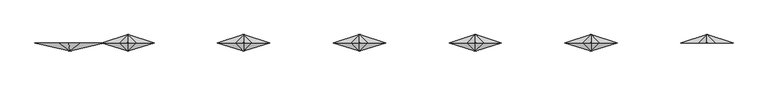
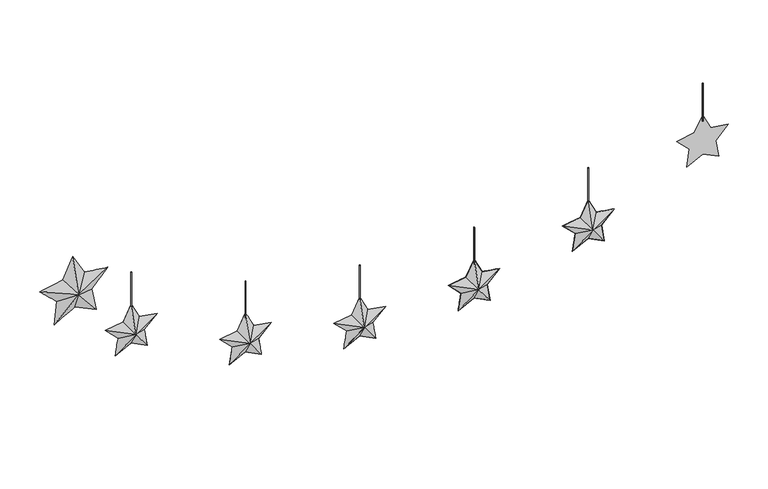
"""IFC4 building model written with IfcOpenShell, lengths in millimetres: furniture geometry, Гирлянда_звездочки_world_of_REVIT : Гирлянда звездочки_world_of_REVIT."""

from ifc_helpers import new_model, si_unit, point, frame, frame_2d, origin, place, context, project, spatial, circle_curve, trimmed, segment, composite_curve, outline, extrude, source, transform, mapped, element, save
from ifc_brep_helpers import plane_surface, spline_surface, advanced_brep


def furniture_1a968277(model_context):
    return source(origin(), model_context, "Body", "SolidModel", [
        advanced_brep(
        [(-856.4274722, -20.0, 1791.1650767), (-857.2103216, -20.0, 1791.6931154), (-857.9384188, -20.0, 1791.1330915), (-857.6264346, -20.0, 1790.2759219), (-856.6718154, -20.0, 1790.3129506), (-772.3482802, 0.0, 1821.7673999), (-812.8397593, 0.0, 1778.3456047), (-801.5110833, 0.0, 1720.0646192), (-855.3202198, 0.0, 1745.1562316), (-907.2479774, 0.0, 1716.3722055), (-900.0123736, 0.0, 1775.30147), (-943.4341687, 0.0, 1815.792949), (-885.1531832, 0.0, 1827.121625), (-860.0615708, 0.0, 1880.9307614), (-831.2775447, 0.0, 1829.0030038)],
        [
            (0, 1),
            (1, 2),
            (2, 3),
            (3, 4),
            (4, 0),
            (5, 6),
            (6, 7),
            (7, 8),
            (8, 9),
            (9, 10),
            (10, 11),
            (11, 12),
            (12, 13),
            (13, 14),
            (14, 5),
            (5, 0),
            (4, 6),
            (4, 7),
            (4, 8),
            (3, 9),
            (11, 2),
            (1, 12),
            (1, 13),
            (1, 14),
            (10, 3),
        ],
        [
            plane_surface(frame((-857.1748925, -20.0, 1790.9160312), z_axis=(0.0, -1.0000000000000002, 0.0), x_axis=(-0.8290375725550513, 0.0, 0.5591929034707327))),
            plane_surface(frame((-856.9206161, 0.0, 1790.985587), z_axis=(0.0, 1.0000000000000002, 0.0), x_axis=(-0.8290375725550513, 0.0, 0.5591929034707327))),
            spline_surface(1, 1, [[(-812.8397593, 0.0, 1778.3456047), (-856.6718154, -20.0, 1790.3129506)], [(-772.3482802, 0.0, 1821.7673999), (-856.4274722, -20.0, 1791.1650767)]], [2, 2], [2, 2], [0.0, 1.0], [0.0, 1.0]),
            plane_surface(frame((-807.1754213, 0.0, 1749.205112), z_axis=(0.4325552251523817, -0.8976783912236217, 0.0840802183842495), x_axis=(-0.19080899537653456, 0.0, 0.981627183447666))),
            plane_surface(frame((-828.4156515, 0.0, 1732.6104254), z_axis=(-0.1876682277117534, -0.8959966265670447, -0.40245581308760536), x_axis=(0.9063077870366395, 0.0, -0.42261826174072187))),
            spline_surface(1, 1, [[(-907.2479774, 0.0, 1716.3722055), (-857.6264346, -20.0, 1790.2759219)], [(-855.3202198, 0.0, 1745.1562316), (-856.6718154, -20.0, 1790.3129506)]], [2, 2], [2, 2], [0.0, 1.0], [0.0, 1.0]),
            spline_surface(1, 1, [[(-885.1531832, 0.0, 1827.121625), (-857.2103216, -20.0, 1791.6931154)], [(-943.4341687, 0.0, 1815.792949), (-857.9384188, -20.0, 1791.1330915)]], [2, 2], [2, 2], [0.0, 1.0], [0.0, 1.0]),
            plane_surface(frame((-872.607377, 0.0, 1854.0261932), z_axis=(-0.4029135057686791, -0.8957461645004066, 0.18788165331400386), x_axis=(-0.4226182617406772, 0.0, -0.9063077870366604))),
            plane_surface(frame((-845.6695578, 0.0, 1854.9668826), z_axis=(0.3852022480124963, -0.8977906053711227, 0.21352109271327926), x_axis=(-0.4848096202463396, 0.0, 0.8746197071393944))),
            spline_surface(1, 1, [[(-772.3482802, 0.0, 1821.7673999), (-856.4274722, -20.0, 1791.1650767)], [(-831.2775447, 0.0, 1829.0030038), (-857.2103216, -20.0, 1791.6931154)]], [2, 2], [2, 2], [0.0, 1.0], [0.0, 1.0]),
            spline_surface(1, 1, [[(-943.4341687, 0.0, 1815.792949), (-857.9384188, -20.0, 1791.1330915)], [(-900.0123736, 0.0, 1775.30147), (-857.6264346, -20.0, 1790.2759219)]], [2, 2], [2, 2], [0.0, 1.0], [0.0, 1.0]),
            plane_surface(frame((-903.6301755, 0.0, 1745.8368377), z_axis=(-0.4417137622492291, -0.8955151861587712, 0.05423563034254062), x_axis=(-0.12186934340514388, 0.0, -0.9925461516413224))),
        ],
        [
            (0, [[1, 2, 3, 4, 5]]),
            (1, [[6, 7, 8, 9, 10, 11, 12, 13, 14, 15]]),
            (2, [[-6, 16, -5, 17]]),
            (3, [[-7, -17, 18]]),
            (4, [[-8, -18, 19]]),
            (5, [[-9, -19, -4, 20]]),
            (6, [[-12, 21, -2, 22]]),
            (7, [[-13, -22, 23]]),
            (8, [[-14, -23, 24]]),
            (9, [[-15, -24, -1, -16]]),
            (10, [[-11, 25, -3, -21]]),
            (11, [[-10, -20, -25]]),
        ],
    ),
        extrude(outline(composite_curve([segment(trimmed(circle_curve(frame_2d((-714.2857143, 0.0)), 1.0), [point((-715.2857143, 0.0))], [point((-713.2857143, 0.0))], False, "CARTESIAN"), True, "CONTINUOUS"), segment(trimmed(circle_curve(frame_2d((-714.2857143, 0.0)), 1.0), [point((-713.2857143, 0.0))], [point((-715.2857143, 0.0))], False, "CARTESIAN"), True, "CONTINUOUS")], self_intersect=False)), frame((0.0, 0.0, 1687.5637503), z_axis=(0.0, 0.0, 1.0), x_axis=(1.0, 0.0, 0.0)), (0.0, 0.0, 1.0), 100.0),
        extrude(outline(composite_curve([segment(trimmed(circle_curve(frame_2d((-428.5714286, 0.0)), 1.0), [point((-429.5714286, 0.0))], [point((-427.5714286, 0.0))], False, "CARTESIAN"), True, "CONTINUOUS"), segment(trimmed(circle_curve(frame_2d((-428.5714286, 0.0)), 1.0), [point((-427.5714286, 0.0))], [point((-429.5714286, 0.0))], False, "CARTESIAN"), True, "CONTINUOUS")], self_intersect=False)), frame((0.0, 0.0, 1563.9606673), z_axis=(0.0, 0.0, 1.0), x_axis=(1.0, 0.0, 0.0)), (0.0, 0.0, 1.0), 100.0),
        extrude(outline(composite_curve([segment(trimmed(circle_curve(frame_2d((-142.8571429, 0.0)), 1.0), [point((-143.8571429, 0.0))], [point((-141.8571429, 0.0))], False, "CARTESIAN"), True, "CONTINUOUS"), segment(trimmed(circle_curve(frame_2d((-142.8571429, 0.0)), 1.0), [point((-141.8571429, 0.0))], [point((-143.8571429, 0.0))], False, "CARTESIAN"), True, "CONTINUOUS")], self_intersect=False)), frame((0.0, 0.0, 1506.2898264), z_axis=(0.0, 0.0, 1.0), x_axis=(1.0, 0.0, 0.0)), (0.0, 0.0, 1.0), 100.0),
        extrude(outline(composite_curve([segment(trimmed(circle_curve(frame_2d((714.2857143, 0.0)), 1.0), [point((715.2857143, 0.0))], [point((713.2857143, 0.0))], False, "CARTESIAN"), True, "CONTINUOUS"), segment(trimmed(circle_curve(frame_2d((714.2857143, 0.0)), 1.0), [point((713.2857143, 0.0))], [point((715.2857143, 0.0))], False, "CARTESIAN"), True, "CONTINUOUS")], self_intersect=False)), frame((0.0, 0.0, 1687.5637503), z_axis=(0.0, 0.0, 1.0), x_axis=(1.0, 0.0, 0.0)), (0.0, 0.0, 1.0), 100.0),
        extrude(outline(composite_curve([segment(trimmed(circle_curve(frame_2d((428.5714286, 0.0)), 1.0), [point((429.5714286, 0.0))], [point((427.5714286, 0.0))], False, "CARTESIAN"), True, "CONTINUOUS"), segment(trimmed(circle_curve(frame_2d((428.5714286, 0.0)), 1.0), [point((427.5714286, 0.0))], [point((429.5714286, 0.0))], False, "CARTESIAN"), True, "CONTINUOUS")], self_intersect=False)), frame((0.0, 0.0, 1563.9606673), z_axis=(0.0, 0.0, 1.0), x_axis=(1.0, 0.0, 0.0)), (0.0, 0.0, 1.0), 100.0),
        extrude(outline(composite_curve([segment(trimmed(circle_curve(frame_2d((142.8571429, 0.0)), 1.0), [point((143.8571429, 0.0))], [point((141.8571429, 0.0))], False, "CARTESIAN"), True, "CONTINUOUS"), segment(trimmed(circle_curve(frame_2d((142.8571429, 0.0)), 1.0), [point((141.8571429, 0.0))], [point((143.8571429, 0.0))], False, "CARTESIAN"), True, "CONTINUOUS")], self_intersect=False)), frame((0.0, 0.0, 1506.2898264), z_axis=(0.0, 0.0, 1.0), x_axis=(1.0, 0.0, 0.0)), (0.0, 0.0, 1.0), 100.0),
        advanced_brep(
        [(-142.8571429, -20.0, 1454.7920539), (-143.5743091, -20.0, 1454.2710021), (-143.2826057, -20.0, 1453.3612889), (-142.3704249, -20.0, 1453.3612889), (-142.0931986, -20.0, 1454.2370159), (-142.8571429, 0.0, 1522.2403684), (-122.4997719, 0.0, 1482.2867784), (-78.2108762, 0.0, 1475.2721064), (-109.9182248, 0.0, 1443.5647578), (-102.9035528, 0.0, 1399.2758621), (-142.8571429, 0.0, 1419.633233), (-182.8107329, 0.0, 1399.2758621), (-175.7960609, 0.0, 1443.5647578), (-207.5034095, 0.0, 1475.2721064), (-163.2145138, 0.0, 1482.2867784)],
        [
            (0, 1),
            (1, 2),
            (2, 3),
            (3, 4),
            (4, 0),
            (5, 6),
            (6, 7),
            (7, 8),
            (8, 9),
            (9, 10),
            (10, 11),
            (11, 12),
            (12, 13),
            (13, 14),
            (14, 5),
            (14, 1),
            (0, 5),
            (13, 1),
            (12, 1),
            (11, 2),
            (10, 3),
            (9, 3),
            (8, 4),
            (7, 4),
            (6, 4),
        ],
        [
            plane_surface(frame((-142.8355362, -20.0, 1454.0045299), z_axis=(0.0, -1.0000000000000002, 0.0), x_axis=(-0.809016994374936, 0.0, -0.587785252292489))),
            plane_surface(frame((-142.8571429, 0.0, 1454.2672611), z_axis=(0.0, 1.0000000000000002, 0.0), x_axis=(-0.809016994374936, 0.0, -0.587785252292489))),
            spline_surface(1, 1, [[(-142.8571429, 0.0, 1522.2403684), (-142.8571429, -20.0, 1454.7920539)], [(-163.2145138, 0.0, 1482.2867784), (-143.5743091, -20.0, 1454.2710021)]], [2, 2], [2, 2], [0.0, 1.0], [0.0, 1.0]),
            plane_surface(frame((-185.3589617, 0.0, 1478.7794424), z_axis=(-0.08530557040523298, -0.8382332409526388, 0.5385981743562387), x_axis=(-0.9876883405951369, 0.0, -0.15643446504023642))),
            plane_surface(frame((-191.6497352, 0.0, 1459.4184321), z_axis=(-0.389042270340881, -0.8350402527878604, -0.3890422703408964), x_axis=(0.7071067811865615, 0.0, -0.7071067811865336))),
            spline_surface(1, 1, [[(-175.7960609, 0.0, 1443.5647578), (-143.5743091, -20.0, 1454.2710021)], [(-182.8107329, 0.0, 1399.2758621), (-143.2826057, -20.0, 1453.3612889)]], [2, 2], [2, 2], [0.0, 1.0], [0.0, 1.0]),
            spline_surface(1, 1, [[(-182.8107329, 0.0, 1399.2758621), (-143.2826057, -20.0, 1453.3612889)], [(-142.8571429, 0.0, 1419.633233), (-142.3704249, -20.0, 1453.3612889)]], [2, 2], [2, 2], [0.0, 1.0], [0.0, 1.0]),
            plane_surface(frame((-122.8803478, 0.0, 1409.4545475), z_axis=(-0.25025052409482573, -0.8343572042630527, -0.4911443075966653), x_axis=(0.8910065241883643, 0.0, -0.45399049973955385))),
            spline_surface(1, 1, [[(-102.9035528, 0.0, 1399.2758621), (-142.3704249, -20.0, 1453.3612889)], [(-109.9182248, 0.0, 1443.5647578), (-142.0931986, -20.0, 1454.2370159)]], [2, 2], [2, 2], [0.0, 1.0], [0.0, 1.0]),
            plane_surface(frame((-94.0645505, 0.0, 1459.4184321), z_axis=(0.3895531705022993, -0.8345637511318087, -0.3895531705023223), x_axis=(0.7071067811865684, 0.0, 0.7071067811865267))),
            plane_surface(frame((-100.3553241, 0.0, 1478.7794424), z_axis=(0.08525441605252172, -0.8384458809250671, 0.5382751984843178), x_axis=(-0.9876883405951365, 0.0, 0.15643446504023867))),
            spline_surface(1, 1, [[(-122.4997719, 0.0, 1482.2867784), (-142.0931986, -20.0, 1454.2370159)], [(-142.8571429, 0.0, 1522.2403684), (-142.8571429, -20.0, 1454.7920539)]], [2, 2], [2, 2], [0.0, 1.0], [0.0, 1.0]),
        ],
        [
            (0, [[1, 2, 3, 4, 5]]),
            (1, [[6, 7, 8, 9, 10, 11, 12, 13, 14, 15]]),
            (2, [[-15, 16, -1, 17]]),
            (3, [[-14, 18, -16]]),
            (4, [[-13, 19, -18]]),
            (5, [[-12, 20, -2, -19]]),
            (6, [[-11, 21, -3, -20]]),
            (7, [[-10, 22, -21]]),
            (8, [[-9, 23, -4, -22]]),
            (9, [[-8, 24, -23]]),
            (10, [[-7, 25, -24]]),
            (11, [[-6, -17, -5, -25]]),
        ],
    ),
        advanced_brep(
        [(-142.8571429, 20.0, 1454.7920539), (-142.0931986, 20.0, 1454.2370159), (-142.3704249, 20.0, 1453.3612889), (-143.2826057, 20.0, 1453.3612889), (-143.5743091, 20.0, 1454.2710021), (-142.8571429, 0.0, 1522.2403684), (-163.2145138, 0.0, 1482.2867784), (-207.5034095, 0.0, 1475.2721064), (-175.7960609, 0.0, 1443.5647578), (-182.8107329, 0.0, 1399.2758621), (-142.8571429, 0.0, 1419.633233), (-102.9035528, 0.0, 1399.2758621), (-109.9182248, 0.0, 1443.5647578), (-78.2108762, 0.0, 1475.2721064), (-122.4997719, 0.0, 1482.2867784)],
        [
            (0, 1),
            (1, 2),
            (2, 3),
            (3, 4),
            (4, 0),
            (5, 6),
            (6, 7),
            (7, 8),
            (8, 9),
            (9, 10),
            (10, 11),
            (11, 12),
            (12, 13),
            (13, 14),
            (14, 5),
            (12, 1),
            (1, 13),
            (11, 2),
            (10, 2),
            (9, 3),
            (8, 4),
            (7, 4),
            (6, 0),
            (5, 0),
            (14, 0),
        ],
        [
            plane_surface(frame((-142.8355362, 20.0, 1454.0045299), z_axis=(0.0, 1.0, 0.0), x_axis=(0.8090169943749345, 0.0, -0.5877852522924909))),
            plane_surface(frame((-142.8571429, 0.0, 1454.2672611), z_axis=(0.0, -1.0, 0.0), x_axis=(0.8090169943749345, 0.0, -0.5877852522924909))),
            plane_surface(frame((-94.0645505, 0.0, 1459.4184321), z_axis=(0.3895531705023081, 0.8345637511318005, -0.38955317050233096), x_axis=(-0.7071067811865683, 0.0, -0.7071067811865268))),
            spline_surface(1, 1, [[(-109.9182248, 0.0, 1443.5647578), (-142.0931986, 20.0, 1454.2370159)], [(-102.9035528, 0.0, 1399.2758621), (-142.3704249, 20.0, 1453.3612889)]], [2, 2], [2, 2], [0.0, 1.0], [0.0, 1.0]),
            plane_surface(frame((-122.8803478, 0.0, 1409.4545475), z_axis=(-0.2502505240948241, 0.8343572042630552, -0.4911443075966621), x_axis=(-0.8910065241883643, 0.0, 0.4539904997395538))),
            spline_surface(1, 1, [[(-142.8571429, 0.0, 1419.633233), (-142.3704249, 20.0, 1453.3612889)], [(-182.8107329, 0.0, 1399.2758621), (-143.2826057, 20.0, 1453.3612889)]], [2, 2], [2, 2], [0.0, 1.0], [0.0, 1.0]),
            spline_surface(1, 1, [[(-182.8107329, 0.0, 1399.2758621), (-143.2826057, 20.0, 1453.3612889)], [(-175.7960609, 0.0, 1443.5647578), (-143.5743091, 20.0, 1454.2710021)]], [2, 2], [2, 2], [0.0, 1.0], [0.0, 1.0]),
            plane_surface(frame((-191.6497352, 0.0, 1459.4184321), z_axis=(-0.38904227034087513, 0.8350402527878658, -0.3890422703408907), x_axis=(-0.7071067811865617, 0.0, 0.7071067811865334))),
            spline_surface(1, 1, [[(-207.5034095, 0.0, 1475.2721064), (-143.5743091, 20.0, 1454.2710021)], [(-163.2145138, 0.0, 1482.2867784), (-142.8571429, 20.0, 1454.7920539)]], [2, 2], [2, 2], [0.0, 1.0], [0.0, 1.0]),
            plane_surface(frame((-153.0358283, 0.0, 1502.2635734), z_axis=(-0.487238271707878, 0.8372369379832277, 0.2482602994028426), x_axis=(0.4539904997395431, 0.0, 0.8910065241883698))),
            plane_surface(frame((-132.6784574, 0.0, 1502.2635734), z_axis=(0.48723827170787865, 0.8372369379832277, 0.24826029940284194), x_axis=(0.4539904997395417, 0.0, -0.8910065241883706))),
            spline_surface(1, 1, [[(-122.4997719, 0.0, 1482.2867784), (-142.8571429, 20.0, 1454.7920539)], [(-78.2108762, 0.0, 1475.2721064), (-142.0931986, 20.0, 1454.2370159)]], [2, 2], [2, 2], [0.0, 1.0], [0.0, 1.0]),
        ],
        [
            (0, [[1, 2, 3, 4, 5]]),
            (1, [[6, 7, 8, 9, 10, 11, 12, 13, 14, 15]]),
            (2, [[-13, 16, 17]]),
            (3, [[-12, 18, -2, -16]]),
            (4, [[-11, 19, -18]]),
            (5, [[-10, 20, -3, -19]]),
            (6, [[-9, 21, -4, -20]]),
            (7, [[-8, 22, -21]]),
            (8, [[-7, 23, -5, -22]]),
            (9, [[-6, 24, -23]]),
            (10, [[-15, 25, -24]]),
            (11, [[-14, -17, -1, -25]]),
        ],
    ),
        advanced_brep(
        [(-428.5714286, -20.0, 1512.4628948), (-429.2885949, -20.0, 1511.941843), (-428.9968915, -20.0, 1511.0321298), (-428.0847106, -20.0, 1511.0321298), (-427.8074843, -20.0, 1511.9078568), (-428.5714286, 0.0, 1579.9112093), (-408.2140576, 0.0, 1539.9576193), (-363.9251619, 0.0, 1532.9429473), (-395.6325105, 0.0, 1501.2355987), (-388.6178385, 0.0, 1456.946703), (-428.5714286, 0.0, 1477.3040739), (-468.5250186, 0.0, 1456.946703), (-461.5103467, 0.0, 1501.2355987), (-493.2176953, 0.0, 1532.9429473), (-448.9287995, 0.0, 1539.9576193)],
        [
            (0, 1),
            (1, 2),
            (2, 3),
            (3, 4),
            (4, 0),
            (5, 6),
            (6, 7),
            (7, 8),
            (8, 9),
            (9, 10),
            (10, 11),
            (11, 12),
            (12, 13),
            (13, 14),
            (14, 5),
            (14, 1),
            (0, 5),
            (13, 1),
            (12, 1),
            (11, 2),
            (10, 3),
            (9, 3),
            (8, 4),
            (7, 4),
            (6, 4),
        ],
        [
            plane_surface(frame((-428.549822, -20.0, 1511.6753708), z_axis=(0.0, -1.0000000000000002, 0.0), x_axis=(-0.809016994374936, 0.0, -0.587785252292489))),
            plane_surface(frame((-428.5714286, 0.0, 1511.938102), z_axis=(0.0, 1.0000000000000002, 0.0), x_axis=(-0.809016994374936, 0.0, -0.587785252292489))),
            spline_surface(1, 1, [[(-428.5714286, 0.0, 1579.9112093), (-428.5714286, -20.0, 1512.4628948)], [(-448.9287995, 0.0, 1539.9576193), (-429.2885949, -20.0, 1511.941843)]], [2, 2], [2, 2], [0.0, 1.0], [0.0, 1.0]),
            plane_surface(frame((-471.0732474, 0.0, 1536.4502833), z_axis=(-0.08530557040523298, -0.8382332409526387, 0.5385981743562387), x_axis=(-0.9876883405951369, 0.0, -0.15643446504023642))),
            plane_surface(frame((-477.364021, 0.0, 1517.089273), z_axis=(-0.38904227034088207, -0.8350402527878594, -0.3890422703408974), x_axis=(0.7071067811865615, 0.0, -0.7071067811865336))),
            spline_surface(1, 1, [[(-461.5103467, 0.0, 1501.2355987), (-429.2885949, -20.0, 1511.941843)], [(-468.5250186, 0.0, 1456.946703), (-428.9968915, -20.0, 1511.0321298)]], [2, 2], [2, 2], [0.0, 1.0], [0.0, 1.0]),
            spline_surface(1, 1, [[(-468.5250186, 0.0, 1456.946703), (-428.9968915, -20.0, 1511.0321298)], [(-428.5714286, 0.0, 1477.3040739), (-428.0847106, -20.0, 1511.0321298)]], [2, 2], [2, 2], [0.0, 1.0], [0.0, 1.0]),
            plane_surface(frame((-408.5946335, 0.0, 1467.1253884), z_axis=(-0.2502505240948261, -0.8343572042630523, -0.49114430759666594), x_axis=(0.8910065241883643, 0.0, -0.45399049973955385))),
            spline_surface(1, 1, [[(-388.6178385, 0.0, 1456.946703), (-428.0847106, -20.0, 1511.0321298)], [(-395.6325105, 0.0, 1501.2355987), (-427.8074843, -20.0, 1511.9078568)]], [2, 2], [2, 2], [0.0, 1.0], [0.0, 1.0]),
            plane_surface(frame((-379.7788362, 0.0, 1517.089273), z_axis=(0.3895531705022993, -0.8345637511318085, -0.3895531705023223), x_axis=(0.7071067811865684, 0.0, 0.7071067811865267))),
            plane_surface(frame((-386.0696098, 0.0, 1536.4502833), z_axis=(0.08525441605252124, -0.8384458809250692, 0.5382751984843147), x_axis=(-0.9876883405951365, 0.0, 0.15643446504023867))),
            spline_surface(1, 1, [[(-408.2140576, 0.0, 1539.9576193), (-427.8074843, -20.0, 1511.9078568)], [(-428.5714286, 0.0, 1579.9112093), (-428.5714286, -20.0, 1512.4628948)]], [2, 2], [2, 2], [0.0, 1.0], [0.0, 1.0]),
        ],
        [
            (0, [[1, 2, 3, 4, 5]]),
            (1, [[6, 7, 8, 9, 10, 11, 12, 13, 14, 15]]),
            (2, [[-15, 16, -1, 17]]),
            (3, [[-14, 18, -16]]),
            (4, [[-13, 19, -18]]),
            (5, [[-12, 20, -2, -19]]),
            (6, [[-11, 21, -3, -20]]),
            (7, [[-10, 22, -21]]),
            (8, [[-9, 23, -4, -22]]),
            (9, [[-8, 24, -23]]),
            (10, [[-7, 25, -24]]),
            (11, [[-6, -17, -5, -25]]),
        ],
    ),
        advanced_brep(
        [(-428.5714286, 20.0, 1512.4628948), (-427.8074843, 20.0, 1511.9078568), (-428.0847106, 20.0, 1511.0321298), (-428.9968915, 20.0, 1511.0321298), (-429.2885949, 20.0, 1511.941843), (-428.5714286, 0.0, 1579.9112093), (-448.9287995, 0.0, 1539.9576193), (-493.2176953, 0.0, 1532.9429473), (-461.5103467, 0.0, 1501.2355987), (-468.5250186, 0.0, 1456.946703), (-428.5714286, 0.0, 1477.3040739), (-388.6178385, 0.0, 1456.946703), (-395.6325105, 0.0, 1501.2355987), (-363.9251619, 0.0, 1532.9429473), (-408.2140576, 0.0, 1539.9576193)],
        [
            (0, 1),
            (1, 2),
            (2, 3),
            (3, 4),
            (4, 0),
            (5, 6),
            (6, 7),
            (7, 8),
            (8, 9),
            (9, 10),
            (10, 11),
            (11, 12),
            (12, 13),
            (13, 14),
            (14, 5),
            (12, 1),
            (1, 13),
            (11, 2),
            (10, 2),
            (9, 3),
            (8, 4),
            (7, 4),
            (6, 0),
            (5, 0),
            (14, 0),
        ],
        [
            plane_surface(frame((-428.549822, 20.0, 1511.6753708), z_axis=(0.0, 1.0, 0.0), x_axis=(0.8090169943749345, 0.0, -0.5877852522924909))),
            plane_surface(frame((-428.5714286, 0.0, 1511.938102), z_axis=(0.0, -1.0, 0.0), x_axis=(0.8090169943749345, 0.0, -0.5877852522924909))),
            plane_surface(frame((-379.7788362, 0.0, 1517.089273), z_axis=(0.38955317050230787, 0.8345637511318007, -0.38955317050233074), x_axis=(-0.7071067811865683, 0.0, -0.7071067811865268))),
            spline_surface(1, 1, [[(-395.6325105, 0.0, 1501.2355987), (-427.8074843, 20.0, 1511.9078568)], [(-388.6178385, 0.0, 1456.946703), (-428.0847106, 20.0, 1511.0321298)]], [2, 2], [2, 2], [0.0, 1.0], [0.0, 1.0]),
            plane_surface(frame((-408.5946335, 0.0, 1467.1253884), z_axis=(-0.2502505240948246, 0.8343572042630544, -0.49114430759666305), x_axis=(-0.8910065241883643, 0.0, 0.4539904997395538))),
            spline_surface(1, 1, [[(-428.5714286, 0.0, 1477.3040739), (-428.0847106, 20.0, 1511.0321298)], [(-468.5250186, 0.0, 1456.946703), (-428.9968915, 20.0, 1511.0321298)]], [2, 2], [2, 2], [0.0, 1.0], [0.0, 1.0]),
            spline_surface(1, 1, [[(-468.5250186, 0.0, 1456.946703), (-428.9968915, 20.0, 1511.0321298)], [(-461.5103467, 0.0, 1501.2355987), (-429.2885949, 20.0, 1511.941843)]], [2, 2], [2, 2], [0.0, 1.0], [0.0, 1.0]),
            plane_surface(frame((-477.364021, 0.0, 1517.089273), z_axis=(-0.3890422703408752, 0.8350402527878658, -0.3890422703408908), x_axis=(-0.7071067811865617, 0.0, 0.7071067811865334))),
            spline_surface(1, 1, [[(-493.2176953, 0.0, 1532.9429473), (-429.2885949, 20.0, 1511.941843)], [(-448.9287995, 0.0, 1539.9576193), (-428.5714286, 20.0, 1512.4628948)]], [2, 2], [2, 2], [0.0, 1.0], [0.0, 1.0]),
            plane_surface(frame((-438.750114, 0.0, 1559.9344143), z_axis=(-0.4872382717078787, 0.8372369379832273, 0.24826029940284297), x_axis=(0.4539904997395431, 0.0, 0.8910065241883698))),
            plane_surface(frame((-418.3927431, 0.0, 1559.9344143), z_axis=(0.48723827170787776, 0.8372369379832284, 0.2482602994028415), x_axis=(0.4539904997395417, 0.0, -0.8910065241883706))),
            spline_surface(1, 1, [[(-408.2140576, 0.0, 1539.9576193), (-428.5714286, 20.0, 1512.4628948)], [(-363.9251619, 0.0, 1532.9429473), (-427.8074843, 20.0, 1511.9078568)]], [2, 2], [2, 2], [0.0, 1.0], [0.0, 1.0]),
        ],
        [
            (0, [[1, 2, 3, 4, 5]]),
            (1, [[6, 7, 8, 9, 10, 11, 12, 13, 14, 15]]),
            (2, [[-13, 16, 17]]),
            (3, [[-12, 18, -2, -16]]),
            (4, [[-11, 19, -18]]),
            (5, [[-10, 20, -3, -19]]),
            (6, [[-9, 21, -4, -20]]),
            (7, [[-8, 22, -21]]),
            (8, [[-7, 23, -5, -22]]),
            (9, [[-6, 24, -23]]),
            (10, [[-15, 25, -24]]),
            (11, [[-14, -17, -1, -25]]),
        ],
    ),
        advanced_brep(
        [(-714.2857143, -20.0, 1636.0659778), (-715.0028806, -20.0, 1635.544926), (-714.7111772, -20.0, 1634.6352128), (-713.7989963, -20.0, 1634.6352128), (-713.52177, -20.0, 1635.5109398), (-714.2857143, 0.0, 1703.5142923), (-693.9283434, 0.0, 1663.5607023), (-649.6394476, 0.0, 1656.5460303), (-681.3467962, 0.0, 1624.8386817), (-674.3321242, 0.0, 1580.549786), (-714.2857143, 0.0, 1600.9071569), (-754.2393043, 0.0, 1580.549786), (-747.2246324, 0.0, 1624.8386817), (-778.931981, 0.0, 1656.5460303), (-734.6430852, 0.0, 1663.5607023)],
        [
            (0, 1),
            (1, 2),
            (2, 3),
            (3, 4),
            (4, 0),
            (5, 6),
            (6, 7),
            (7, 8),
            (8, 9),
            (9, 10),
            (10, 11),
            (11, 12),
            (12, 13),
            (13, 14),
            (14, 5),
            (14, 1),
            (0, 5),
            (13, 1),
            (12, 1),
            (11, 2),
            (10, 3),
            (9, 3),
            (8, 4),
            (7, 4),
            (6, 4),
        ],
        [
            plane_surface(frame((-714.2641077, -20.0, 1635.2784538), z_axis=(0.0, -1.0000000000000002, 0.0), x_axis=(-0.809016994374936, 0.0, -0.587785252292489))),
            plane_surface(frame((-714.2857143, 0.0, 1635.541185), z_axis=(0.0, 1.0000000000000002, 0.0), x_axis=(-0.809016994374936, 0.0, -0.587785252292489))),
            spline_surface(1, 1, [[(-714.2857143, 0.0, 1703.5142923), (-714.2857143, -20.0, 1636.0659778)], [(-734.6430852, 0.0, 1663.5607023), (-715.0028806, -20.0, 1635.544926)]], [2, 2], [2, 2], [0.0, 1.0], [0.0, 1.0]),
            plane_surface(frame((-756.7875331, 0.0, 1660.0533663), z_axis=(-0.08530557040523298, -0.8382332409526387, 0.5385981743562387), x_axis=(-0.9876883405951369, 0.0, -0.15643446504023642))),
            plane_surface(frame((-763.0783067, 0.0, 1640.692356), z_axis=(-0.3890422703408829, -0.8350402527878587, -0.3890422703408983), x_axis=(0.7071067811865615, 0.0, -0.7071067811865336))),
            spline_surface(1, 1, [[(-747.2246324, 0.0, 1624.8386817), (-715.0028806, -20.0, 1635.544926)], [(-754.2393043, 0.0, 1580.549786), (-714.7111772, -20.0, 1634.6352128)]], [2, 2], [2, 2], [0.0, 1.0], [0.0, 1.0]),
            spline_surface(1, 1, [[(-754.2393043, 0.0, 1580.549786), (-714.7111772, -20.0, 1634.6352128)], [(-714.2857143, 0.0, 1600.9071569), (-713.7989963, -20.0, 1634.6352128)]], [2, 2], [2, 2], [0.0, 1.0], [0.0, 1.0]),
            plane_surface(frame((-694.3089193, 0.0, 1590.7284714), z_axis=(-0.25025052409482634, -0.8343572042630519, -0.49114430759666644), x_axis=(0.8910065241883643, 0.0, -0.45399049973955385))),
            spline_surface(1, 1, [[(-674.3321242, 0.0, 1580.549786), (-713.7989963, -20.0, 1634.6352128)], [(-681.3467962, 0.0, 1624.8386817), (-713.52177, -20.0, 1635.5109398)]], [2, 2], [2, 2], [0.0, 1.0], [0.0, 1.0]),
            plane_surface(frame((-665.4931219, 0.0, 1640.692356), z_axis=(0.3895531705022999, -0.8345637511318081, -0.38955317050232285), x_axis=(0.7071067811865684, 0.0, 0.7071067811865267))),
            plane_surface(frame((-671.7838955, 0.0, 1660.0533663), z_axis=(0.08525441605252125, -0.8384458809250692, 0.5382751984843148), x_axis=(-0.9876883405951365, 0.0, 0.15643446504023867))),
            spline_surface(1, 1, [[(-693.9283434, 0.0, 1663.5607023), (-713.52177, -20.0, 1635.5109398)], [(-714.2857143, 0.0, 1703.5142923), (-714.2857143, -20.0, 1636.0659778)]], [2, 2], [2, 2], [0.0, 1.0], [0.0, 1.0]),
        ],
        [
            (0, [[1, 2, 3, 4, 5]]),
            (1, [[6, 7, 8, 9, 10, 11, 12, 13, 14, 15]]),
            (2, [[-15, 16, -1, 17]]),
            (3, [[-14, 18, -16]]),
            (4, [[-13, 19, -18]]),
            (5, [[-12, 20, -2, -19]]),
            (6, [[-11, 21, -3, -20]]),
            (7, [[-10, 22, -21]]),
            (8, [[-9, 23, -4, -22]]),
            (9, [[-8, 24, -23]]),
            (10, [[-7, 25, -24]]),
            (11, [[-6, -17, -5, -25]]),
        ],
    ),
        advanced_brep(
        [(-714.2857143, 20.0, 1636.0659778), (-713.52177, 20.0, 1635.5109398), (-713.7989963, 20.0, 1634.6352128), (-714.7111772, 20.0, 1634.6352128), (-715.0028806, 20.0, 1635.544926), (-714.2857143, 0.0, 1703.5142923), (-734.6430852, 0.0, 1663.5607023), (-778.931981, 0.0, 1656.5460303), (-747.2246324, 0.0, 1624.8386817), (-754.2393043, 0.0, 1580.549786), (-714.2857143, 0.0, 1600.9071569), (-674.3321242, 0.0, 1580.549786), (-681.3467962, 0.0, 1624.8386817), (-649.6394476, 0.0, 1656.5460303), (-693.9283434, 0.0, 1663.5607023)],
        [
            (0, 1),
            (1, 2),
            (2, 3),
            (3, 4),
            (4, 0),
            (5, 6),
            (6, 7),
            (7, 8),
            (8, 9),
            (9, 10),
            (10, 11),
            (11, 12),
            (12, 13),
            (13, 14),
            (14, 5),
            (12, 1),
            (1, 13),
            (11, 2),
            (10, 2),
            (9, 3),
            (8, 4),
            (7, 4),
            (6, 4),
            (5, 0),
            (14, 0),
        ],
        [
            plane_surface(frame((-714.2641077, 20.0, 1635.2784538), z_axis=(0.0, 1.0, 0.0), x_axis=(0.8090169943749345, 0.0, -0.5877852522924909))),
            plane_surface(frame((-714.2857143, 0.0, 1635.541185), z_axis=(0.0, -1.0, 0.0), x_axis=(0.8090169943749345, 0.0, -0.5877852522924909))),
            plane_surface(frame((-665.4931219, 0.0, 1640.692356), z_axis=(0.3895531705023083, 0.8345637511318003, -0.3895531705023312), x_axis=(-0.7071067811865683, 0.0, -0.7071067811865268))),
            spline_surface(1, 1, [[(-681.3467962, 0.0, 1624.8386817), (-713.52177, 20.0, 1635.5109398)], [(-674.3321242, 0.0, 1580.549786), (-713.7989963, 20.0, 1634.6352128)]], [2, 2], [2, 2], [0.0, 1.0], [0.0, 1.0]),
            plane_surface(frame((-694.3089193, 0.0, 1590.7284714), z_axis=(-0.2502505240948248, 0.834357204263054, -0.4911443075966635), x_axis=(-0.8910065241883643, 0.0, 0.4539904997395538))),
            spline_surface(1, 1, [[(-714.2857143, 0.0, 1600.9071569), (-713.7989963, 20.0, 1634.6352128)], [(-754.2393043, 0.0, 1580.549786), (-714.7111772, 20.0, 1634.6352128)]], [2, 2], [2, 2], [0.0, 1.0], [0.0, 1.0]),
            spline_surface(1, 1, [[(-754.2393043, 0.0, 1580.549786), (-714.7111772, 20.0, 1634.6352128)], [(-747.2246324, 0.0, 1624.8386817), (-715.0028806, 20.0, 1635.544926)]], [2, 2], [2, 2], [0.0, 1.0], [0.0, 1.0]),
            plane_surface(frame((-763.0783067, 0.0, 1640.692356), z_axis=(-0.3890422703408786, 0.8350402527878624, -0.3890422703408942), x_axis=(-0.7071067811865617, 0.0, 0.7071067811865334))),
            plane_surface(frame((-756.7875331, 0.0, 1660.0533663), z_axis=(-0.08530557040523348, 0.8382332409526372, 0.5385981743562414), x_axis=(0.9876883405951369, 0.0, 0.15643446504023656))),
            spline_surface(1, 1, [[(-734.6430852, 0.0, 1663.5607023), (-715.0028806, 20.0, 1635.544926)], [(-714.2857143, 0.0, 1703.5142923), (-714.2857143, 20.0, 1636.0659778)]], [2, 2], [2, 2], [0.0, 1.0], [0.0, 1.0]),
            plane_surface(frame((-704.1070288, 0.0, 1683.5374973), z_axis=(0.48723827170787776, 0.8372369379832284, 0.2482602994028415), x_axis=(0.4539904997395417, 0.0, -0.8910065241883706))),
            spline_surface(1, 1, [[(-693.9283434, 0.0, 1663.5607023), (-714.2857143, 20.0, 1636.0659778)], [(-649.6394476, 0.0, 1656.5460303), (-713.52177, 20.0, 1635.5109398)]], [2, 2], [2, 2], [0.0, 1.0], [0.0, 1.0]),
        ],
        [
            (0, [[1, 2, 3, 4, 5]]),
            (1, [[6, 7, 8, 9, 10, 11, 12, 13, 14, 15]]),
            (2, [[-13, 16, 17]]),
            (3, [[-12, 18, -2, -16]]),
            (4, [[-11, 19, -18]]),
            (5, [[-10, 20, -3, -19]]),
            (6, [[-9, 21, -4, -20]]),
            (7, [[-8, 22, -21]]),
            (8, [[-7, 23, -22]]),
            (9, [[-6, 24, -5, -23]]),
            (10, [[-15, 25, -24]]),
            (11, [[-14, -17, -1, -25]]),
        ],
    ),
        advanced_brep(
        [(142.8571429, 20.0, 1454.7920539), (143.5743091, 20.0, 1454.2710021), (143.2826057, 20.0, 1453.3612889), (142.3704249, 20.0, 1453.3612889), (142.0931986, 20.0, 1454.2370159), (142.8571429, 0.0, 1522.2403684), (122.4997719, 0.0, 1482.2867784), (78.2108762, 0.0, 1475.2721064), (109.9182248, 0.0, 1443.5647578), (102.9035528, 0.0, 1399.2758621), (142.8571429, 0.0, 1419.633233), (182.8107329, 0.0, 1399.2758621), (175.7960609, 0.0, 1443.5647578), (207.5034095, 0.0, 1475.2721064), (163.2145138, 0.0, 1482.2867784)],
        [
            (0, 1),
            (1, 2),
            (2, 3),
            (3, 4),
            (4, 0),
            (5, 6),
            (6, 7),
            (7, 8),
            (8, 9),
            (9, 10),
            (10, 11),
            (11, 12),
            (12, 13),
            (13, 14),
            (14, 5),
            (14, 1),
            (0, 5),
            (13, 1),
            (12, 1),
            (11, 2),
            (10, 3),
            (9, 3),
            (8, 4),
            (7, 4),
            (6, 4),
        ],
        [
            plane_surface(frame((142.8355362, 20.0, 1454.0045299), z_axis=(0.0, 1.0, 0.0), x_axis=(0.8090169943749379, 0.0, -0.5877852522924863))),
            plane_surface(frame((142.8571429, 0.0, 1454.2672611), z_axis=(0.0, -1.0, 0.0), x_axis=(0.8090169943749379, 0.0, -0.5877852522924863))),
            spline_surface(1, 1, [[(142.8571429, 0.0, 1522.2403684), (142.8571429, 20.0, 1454.7920539)], [(163.2145138, 0.0, 1482.2867784), (143.5743091, 20.0, 1454.2710021)]], [2, 2], [2, 2], [0.0, 1.0], [0.0, 1.0]),
            plane_surface(frame((185.3589617, 0.0, 1478.7794424), z_axis=(0.08530557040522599, 0.8382332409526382, 0.5385981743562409), x_axis=(0.9876883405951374, 0.0, -0.15643446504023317))),
            plane_surface(frame((191.6497352, 0.0, 1459.4184321), z_axis=(0.38904227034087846, 0.8350402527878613, -0.3890422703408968), x_axis=(-0.7071067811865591, 0.0, -0.7071067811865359))),
            spline_surface(1, 1, [[(175.7960609, 0.0, 1443.5647578), (143.5743091, 20.0, 1454.2710021)], [(182.8107329, 0.0, 1399.2758621), (143.2826057, 20.0, 1453.3612889)]], [2, 2], [2, 2], [0.0, 1.0], [0.0, 1.0]),
            spline_surface(1, 1, [[(182.8107329, 0.0, 1399.2758621), (143.2826057, 20.0, 1453.3612889)], [(142.8571429, 0.0, 1419.633233), (142.3704249, 20.0, 1453.3612889)]], [2, 2], [2, 2], [0.0, 1.0], [0.0, 1.0]),
            plane_surface(frame((122.8803478, 0.0, 1409.4545475), z_axis=(0.25025052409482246, 0.8343572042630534, -0.49114430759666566), x_axis=(-0.8910065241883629, 0.0, -0.4539904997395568))),
            spline_surface(1, 1, [[(102.9035528, 0.0, 1399.2758621), (142.3704249, 20.0, 1453.3612889)], [(109.9182248, 0.0, 1443.5647578), (142.0931986, 20.0, 1454.2370159)]], [2, 2], [2, 2], [0.0, 1.0], [0.0, 1.0]),
            plane_surface(frame((94.0645505, 0.0, 1459.4184321), z_axis=(-0.3895531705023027, 0.8345637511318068, -0.38955317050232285), x_axis=(-0.7071067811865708, 0.0, 0.7071067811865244))),
            plane_surface(frame((100.3553241, 0.0, 1478.7794424), z_axis=(-0.0852544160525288, 0.8384458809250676, 0.5382751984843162), x_axis=(0.987688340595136, 0.0, 0.15643446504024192))),
            spline_surface(1, 1, [[(122.4997719, 0.0, 1482.2867784), (142.0931986, 20.0, 1454.2370159)], [(142.8571429, 0.0, 1522.2403684), (142.8571429, 20.0, 1454.7920539)]], [2, 2], [2, 2], [0.0, 1.0], [0.0, 1.0]),
        ],
        [
            (0, [[1, 2, 3, 4, 5]]),
            (1, [[6, 7, 8, 9, 10, 11, 12, 13, 14, 15]]),
            (2, [[-15, 16, -1, 17]]),
            (3, [[-14, 18, -16]]),
            (4, [[-13, 19, -18]]),
            (5, [[-12, 20, -2, -19]]),
            (6, [[-11, 21, -3, -20]]),
            (7, [[-10, 22, -21]]),
            (8, [[-9, 23, -4, -22]]),
            (9, [[-8, 24, -23]]),
            (10, [[-7, 25, -24]]),
            (11, [[-6, -17, -5, -25]]),
        ],
    ),
        advanced_brep(
        [(142.8571429, -20.0, 1454.7920539), (142.0931986, -20.0, 1454.2370159), (142.3704249, -20.0, 1453.3612889), (143.2826057, -20.0, 1453.3612889), (143.5743091, -20.0, 1454.2710021), (142.8571429, 0.0, 1522.2403684), (163.2145138, 0.0, 1482.2867784), (207.5034095, 0.0, 1475.2721064), (175.7960609, 0.0, 1443.5647578), (182.8107329, 0.0, 1399.2758621), (142.8571429, 0.0, 1419.633233), (102.9035528, 0.0, 1399.2758621), (109.9182248, 0.0, 1443.5647578), (78.2108762, 0.0, 1475.2721064), (122.4997719, 0.0, 1482.2867784)],
        [
            (0, 1),
            (1, 2),
            (2, 3),
            (3, 4),
            (4, 0),
            (5, 6),
            (6, 7),
            (7, 8),
            (8, 9),
            (9, 10),
            (10, 11),
            (11, 12),
            (12, 13),
            (13, 14),
            (14, 5),
            (12, 1),
            (1, 13),
            (11, 2),
            (10, 2),
            (9, 3),
            (8, 4),
            (7, 4),
            (6, 0),
            (5, 0),
            (14, 0),
        ],
        [
            plane_surface(frame((142.8355362, -20.0, 1454.0045299), z_axis=(0.0, -1.0, 0.0), x_axis=(-0.8090169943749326, 0.0, -0.5877852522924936))),
            plane_surface(frame((142.8571429, 0.0, 1454.2672611), z_axis=(0.0, 1.0, 0.0), x_axis=(-0.8090169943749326, 0.0, -0.5877852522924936))),
            plane_surface(frame((94.0645505, 0.0, 1459.4184321), z_axis=(-0.3895531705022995, -0.8345637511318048, -0.38955317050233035), x_axis=(0.7071067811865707, 0.0, -0.7071067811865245))),
            spline_surface(1, 1, [[(109.9182248, 0.0, 1443.5647578), (142.0931986, -20.0, 1454.2370159)], [(102.9035528, 0.0, 1399.2758621), (142.3704249, -20.0, 1453.3612889)]], [2, 2], [2, 2], [0.0, 1.0], [0.0, 1.0]),
            plane_surface(frame((122.8803478, 0.0, 1409.4545475), z_axis=(0.2502505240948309, -0.834357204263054, -0.49114430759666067), x_axis=(0.8910065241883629, 0.0, 0.45399049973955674))),
            spline_surface(1, 1, [[(142.8571429, 0.0, 1419.633233), (142.3704249, -20.0, 1453.3612889)], [(182.8107329, 0.0, 1399.2758621), (143.2826057, -20.0, 1453.3612889)]], [2, 2], [2, 2], [0.0, 1.0], [0.0, 1.0]),
            spline_surface(1, 1, [[(182.8107329, 0.0, 1399.2758621), (143.2826057, -20.0, 1453.3612889)], [(175.7960609, 0.0, 1443.5647578), (143.5743091, -20.0, 1454.2710021)]], [2, 2], [2, 2], [0.0, 1.0], [0.0, 1.0]),
            plane_surface(frame((191.6497352, 0.0, 1459.4184321), z_axis=(0.38904227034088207, -0.8350402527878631, -0.3890422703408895), x_axis=(0.7071067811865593, 0.0, 0.7071067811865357))),
            spline_surface(1, 1, [[(207.5034095, 0.0, 1475.2721064), (143.5743091, -20.0, 1454.2710021)], [(163.2145138, 0.0, 1482.2867784), (142.8571429, -20.0, 1454.7920539)]], [2, 2], [2, 2], [0.0, 1.0], [0.0, 1.0]),
            plane_surface(frame((153.0358283, 0.0, 1502.2635734), z_axis=(0.48723827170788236, -0.8372369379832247, 0.24826029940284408), x_axis=(-0.453990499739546, 0.0, 0.8910065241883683))),
            plane_surface(frame((132.6784574, 0.0, 1502.2635734), z_axis=(-0.48723827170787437, -0.8372369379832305, 0.24826029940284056), x_axis=(-0.45399049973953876, 0.0, -0.891006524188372))),
            spline_surface(1, 1, [[(122.4997719, 0.0, 1482.2867784), (142.8571429, -20.0, 1454.7920539)], [(78.2108762, 0.0, 1475.2721064), (142.0931986, -20.0, 1454.2370159)]], [2, 2], [2, 2], [0.0, 1.0], [0.0, 1.0]),
        ],
        [
            (0, [[1, 2, 3, 4, 5]]),
            (1, [[6, 7, 8, 9, 10, 11, 12, 13, 14, 15]]),
            (2, [[-13, 16, 17]]),
            (3, [[-12, 18, -2, -16]]),
            (4, [[-11, 19, -18]]),
            (5, [[-10, 20, -3, -19]]),
            (6, [[-9, 21, -4, -20]]),
            (7, [[-8, 22, -21]]),
            (8, [[-7, 23, -5, -22]]),
            (9, [[-6, 24, -23]]),
            (10, [[-15, 25, -24]]),
            (11, [[-14, -17, -1, -25]]),
        ],
    ),
        advanced_brep(
        [(428.5714286, 20.0, 1512.4628948), (429.2885949, 20.0, 1511.941843), (428.9968915, 20.0, 1511.0321298), (428.0847106, 20.0, 1511.0321298), (427.8074843, 20.0, 1511.9078568), (428.5714286, 0.0, 1579.9112093), (408.2140576, 0.0, 1539.9576193), (363.9251619, 0.0, 1532.9429473), (395.6325105, 0.0, 1501.2355987), (388.6178385, 0.0, 1456.946703), (428.5714286, 0.0, 1477.3040739), (468.5250186, 0.0, 1456.946703), (461.5103467, 0.0, 1501.2355987), (493.2176953, 0.0, 1532.9429473), (448.9287995, 0.0, 1539.9576193)],
        [
            (0, 1),
            (1, 2),
            (2, 3),
            (3, 4),
            (4, 0),
            (5, 6),
            (6, 7),
            (7, 8),
            (8, 9),
            (9, 10),
            (10, 11),
            (11, 12),
            (12, 13),
            (13, 14),
            (14, 5),
            (14, 1),
            (0, 5),
            (13, 1),
            (12, 1),
            (11, 2),
            (10, 3),
            (9, 3),
            (8, 4),
            (7, 4),
            (6, 4),
        ],
        [
            plane_surface(frame((428.549822, 20.0, 1511.6753708), z_axis=(0.0, 1.0, 0.0), x_axis=(0.8090169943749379, 0.0, -0.5877852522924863))),
            plane_surface(frame((428.5714286, 0.0, 1511.938102), z_axis=(0.0, -1.0, 0.0), x_axis=(0.8090169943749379, 0.0, -0.5877852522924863))),
            spline_surface(1, 1, [[(428.5714286, 0.0, 1579.9112093), (428.5714286, 20.0, 1512.4628948)], [(448.9287995, 0.0, 1539.9576193), (429.2885949, 20.0, 1511.941843)]], [2, 2], [2, 2], [0.0, 1.0], [0.0, 1.0]),
            plane_surface(frame((471.0732474, 0.0, 1536.4502833), z_axis=(0.08530557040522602, 0.8382332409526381, 0.5385981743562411), x_axis=(0.9876883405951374, 0.0, -0.15643446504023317))),
            plane_surface(frame((477.364021, 0.0, 1517.089273), z_axis=(0.38904227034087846, 0.8350402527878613, -0.3890422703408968), x_axis=(-0.7071067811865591, 0.0, -0.7071067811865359))),
            spline_surface(1, 1, [[(461.5103467, 0.0, 1501.2355987), (429.2885949, 20.0, 1511.941843)], [(468.5250186, 0.0, 1456.946703), (428.9968915, 20.0, 1511.0321298)]], [2, 2], [2, 2], [0.0, 1.0], [0.0, 1.0]),
            spline_surface(1, 1, [[(468.5250186, 0.0, 1456.946703), (428.9968915, 20.0, 1511.0321298)], [(428.5714286, 0.0, 1477.3040739), (428.0847106, 20.0, 1511.0321298)]], [2, 2], [2, 2], [0.0, 1.0], [0.0, 1.0]),
            plane_surface(frame((408.5946335, 0.0, 1467.1253884), z_axis=(0.2502505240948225, 0.8343572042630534, -0.4911443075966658), x_axis=(-0.8910065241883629, 0.0, -0.4539904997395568))),
            spline_surface(1, 1, [[(388.6178385, 0.0, 1456.946703), (428.0847106, 20.0, 1511.0321298)], [(395.6325105, 0.0, 1501.2355987), (427.8074843, 20.0, 1511.9078568)]], [2, 2], [2, 2], [0.0, 1.0], [0.0, 1.0]),
            plane_surface(frame((379.7788362, 0.0, 1517.089273), z_axis=(-0.38955317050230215, 0.8345637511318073, -0.3895531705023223), x_axis=(-0.7071067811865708, 0.0, 0.7071067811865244))),
            plane_surface(frame((386.0696098, 0.0, 1536.4502833), z_axis=(-0.08525441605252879, 0.8384458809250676, 0.538275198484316), x_axis=(0.987688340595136, 0.0, 0.15643446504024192))),
            spline_surface(1, 1, [[(408.2140576, 0.0, 1539.9576193), (427.8074843, 20.0, 1511.9078568)], [(428.5714286, 0.0, 1579.9112093), (428.5714286, 20.0, 1512.4628948)]], [2, 2], [2, 2], [0.0, 1.0], [0.0, 1.0]),
        ],
        [
            (0, [[1, 2, 3, 4, 5]]),
            (1, [[6, 7, 8, 9, 10, 11, 12, 13, 14, 15]]),
            (2, [[-15, 16, -1, 17]]),
            (3, [[-14, 18, -16]]),
            (4, [[-13, 19, -18]]),
            (5, [[-12, 20, -2, -19]]),
            (6, [[-11, 21, -3, -20]]),
            (7, [[-10, 22, -21]]),
            (8, [[-9, 23, -4, -22]]),
            (9, [[-8, 24, -23]]),
            (10, [[-7, 25, -24]]),
            (11, [[-6, -17, -5, -25]]),
        ],
    ),
        advanced_brep(
        [(428.5714286, -20.0, 1512.4628948), (427.8074843, -20.0, 1511.9078568), (428.0847106, -20.0, 1511.0321298), (428.9968915, -20.0, 1511.0321298), (429.2885949, -20.0, 1511.941843), (428.5714286, 0.0, 1579.9112093), (448.9287995, 0.0, 1539.9576193), (493.2176953, 0.0, 1532.9429473), (461.5103467, 0.0, 1501.2355987), (468.5250186, 0.0, 1456.946703), (428.5714286, 0.0, 1477.3040739), (388.6178385, 0.0, 1456.946703), (395.6325105, 0.0, 1501.2355987), (363.9251619, 0.0, 1532.9429473), (408.2140576, 0.0, 1539.9576193)],
        [
            (0, 1),
            (1, 2),
            (2, 3),
            (3, 4),
            (4, 0),
            (5, 6),
            (6, 7),
            (7, 8),
            (8, 9),
            (9, 10),
            (10, 11),
            (11, 12),
            (12, 13),
            (13, 14),
            (14, 5),
            (12, 1),
            (1, 13),
            (11, 2),
            (10, 2),
            (9, 3),
            (8, 4),
            (7, 4),
            (6, 0),
            (5, 0),
            (14, 0),
        ],
        [
            plane_surface(frame((428.549822, -20.0, 1511.6753708), z_axis=(0.0, -1.0, 0.0), x_axis=(-0.8090169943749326, 0.0, -0.5877852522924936))),
            plane_surface(frame((428.5714286, 0.0, 1511.938102), z_axis=(0.0, 1.0, 0.0), x_axis=(-0.8090169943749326, 0.0, -0.5877852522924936))),
            plane_surface(frame((379.7788362, 0.0, 1517.089273), z_axis=(-0.3895531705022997, -0.8345637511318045, -0.38955317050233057), x_axis=(0.7071067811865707, 0.0, -0.7071067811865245))),
            spline_surface(1, 1, [[(395.6325105, 0.0, 1501.2355987), (427.8074843, -20.0, 1511.9078568)], [(388.6178385, 0.0, 1456.946703), (428.0847106, -20.0, 1511.0321298)]], [2, 2], [2, 2], [0.0, 1.0], [0.0, 1.0]),
            plane_surface(frame((408.5946335, 0.0, 1467.1253884), z_axis=(0.2502505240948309, -0.834357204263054, -0.49114430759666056), x_axis=(0.8910065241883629, 0.0, 0.45399049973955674))),
            spline_surface(1, 1, [[(428.5714286, 0.0, 1477.3040739), (428.0847106, -20.0, 1511.0321298)], [(468.5250186, 0.0, 1456.946703), (428.9968915, -20.0, 1511.0321298)]], [2, 2], [2, 2], [0.0, 1.0], [0.0, 1.0]),
            spline_surface(1, 1, [[(468.5250186, 0.0, 1456.946703), (428.9968915, -20.0, 1511.0321298)], [(461.5103467, 0.0, 1501.2355987), (429.2885949, -20.0, 1511.941843)]], [2, 2], [2, 2], [0.0, 1.0], [0.0, 1.0]),
            plane_surface(frame((477.364021, 0.0, 1517.089273), z_axis=(0.38904227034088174, -0.8350402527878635, -0.38904227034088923), x_axis=(0.7071067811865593, 0.0, 0.7071067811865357))),
            spline_surface(1, 1, [[(493.2176953, 0.0, 1532.9429473), (429.2885949, -20.0, 1511.941843)], [(448.9287995, 0.0, 1539.9576193), (428.5714286, -20.0, 1512.4628948)]], [2, 2], [2, 2], [0.0, 1.0], [0.0, 1.0]),
            plane_surface(frame((438.750114, 0.0, 1559.9344143), z_axis=(0.48723827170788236, -0.8372369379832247, 0.24826029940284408), x_axis=(-0.453990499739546, 0.0, 0.8910065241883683))),
            plane_surface(frame((418.3927431, 0.0, 1559.9344143), z_axis=(-0.48723827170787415, -0.8372369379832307, 0.24826029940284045), x_axis=(-0.45399049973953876, 0.0, -0.891006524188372))),
            spline_surface(1, 1, [[(408.2140576, 0.0, 1539.9576193), (428.5714286, -20.0, 1512.4628948)], [(363.9251619, 0.0, 1532.9429473), (427.8074843, -20.0, 1511.9078568)]], [2, 2], [2, 2], [0.0, 1.0], [0.0, 1.0]),
        ],
        [
            (0, [[1, 2, 3, 4, 5]]),
            (1, [[6, 7, 8, 9, 10, 11, 12, 13, 14, 15]]),
            (2, [[-13, 16, 17]]),
            (3, [[-12, 18, -2, -16]]),
            (4, [[-11, 19, -18]]),
            (5, [[-10, 20, -3, -19]]),
            (6, [[-9, 21, -4, -20]]),
            (7, [[-8, 22, -21]]),
            (8, [[-7, 23, -5, -22]]),
            (9, [[-6, 24, -23]]),
            (10, [[-15, 25, -24]]),
            (11, [[-14, -17, -1, -25]]),
        ],
    ),
        advanced_brep(
        [(714.2857143, 20.0, 1636.0659778), (715.0028806, 20.0, 1635.544926), (714.7111772, 20.0, 1634.6352128), (713.7989963, 20.0, 1634.6352128), (713.52177, 20.0, 1635.5109398), (714.2857143, 0.0, 1703.5142923), (693.9283434, 0.0, 1663.5607023), (649.6394476, 0.0, 1656.5460303), (681.3467962, 0.0, 1624.8386817), (674.3321242, 0.0, 1580.549786), (714.2857143, 0.0, 1600.9071569), (754.2393043, 0.0, 1580.549786), (747.2246324, 0.0, 1624.8386817), (778.931981, 0.0, 1656.5460303), (734.6430852, 0.0, 1663.5607023)],
        [
            (0, 1),
            (1, 2),
            (2, 3),
            (3, 4),
            (4, 0),
            (5, 6),
            (6, 7),
            (7, 8),
            (8, 9),
            (9, 10),
            (10, 11),
            (11, 12),
            (12, 13),
            (13, 14),
            (14, 5),
            (14, 1),
            (0, 5),
            (13, 1),
            (12, 1),
            (11, 2),
            (10, 3),
            (9, 3),
            (8, 4),
            (7, 4),
            (6, 4),
        ],
        [
            plane_surface(frame((714.2641077, 20.0, 1635.2784538), z_axis=(0.0, 1.0, 0.0), x_axis=(0.8090169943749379, 0.0, -0.5877852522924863))),
            plane_surface(frame((714.2857143, 0.0, 1635.541185), z_axis=(0.0, -1.0, 0.0), x_axis=(0.8090169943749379, 0.0, -0.5877852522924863))),
            spline_surface(1, 1, [[(714.2857143, 0.0, 1703.5142923), (714.2857143, 20.0, 1636.0659778)], [(734.6430852, 0.0, 1663.5607023), (715.0028806, 20.0, 1635.544926)]], [2, 2], [2, 2], [0.0, 1.0], [0.0, 1.0]),
            plane_surface(frame((756.7875331, 0.0, 1660.0533663), z_axis=(0.08530557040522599, 0.8382332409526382, 0.5385981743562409), x_axis=(0.9876883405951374, 0.0, -0.15643446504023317))),
            plane_surface(frame((763.0783067, 0.0, 1640.692356), z_axis=(0.38904227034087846, 0.8350402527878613, -0.3890422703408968), x_axis=(-0.7071067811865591, 0.0, -0.7071067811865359))),
            spline_surface(1, 1, [[(747.2246324, 0.0, 1624.8386817), (715.0028806, 20.0, 1635.544926)], [(754.2393043, 0.0, 1580.549786), (714.7111772, 20.0, 1634.6352128)]], [2, 2], [2, 2], [0.0, 1.0], [0.0, 1.0]),
            spline_surface(1, 1, [[(754.2393043, 0.0, 1580.549786), (714.7111772, 20.0, 1634.6352128)], [(714.2857143, 0.0, 1600.9071569), (713.7989963, 20.0, 1634.6352128)]], [2, 2], [2, 2], [0.0, 1.0], [0.0, 1.0]),
            plane_surface(frame((694.3089193, 0.0, 1590.7284714), z_axis=(0.25025052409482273, 0.8343572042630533, -0.49114430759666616), x_axis=(-0.8910065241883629, 0.0, -0.4539904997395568))),
            spline_surface(1, 1, [[(674.3321242, 0.0, 1580.549786), (713.7989963, 20.0, 1634.6352128)], [(681.3467962, 0.0, 1624.8386817), (713.52177, 20.0, 1635.5109398)]], [2, 2], [2, 2], [0.0, 1.0], [0.0, 1.0]),
            plane_surface(frame((665.4931219, 0.0, 1640.692356), z_axis=(-0.38955317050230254, 0.8345637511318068, -0.3895531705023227), x_axis=(-0.7071067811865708, 0.0, 0.7071067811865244))),
            plane_surface(frame((671.7838955, 0.0, 1660.0533663), z_axis=(-0.08525441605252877, 0.8384458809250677, 0.5382751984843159), x_axis=(0.987688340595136, 0.0, 0.15643446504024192))),
            spline_surface(1, 1, [[(693.9283434, 0.0, 1663.5607023), (713.52177, 20.0, 1635.5109398)], [(714.2857143, 0.0, 1703.5142923), (714.2857143, 20.0, 1636.0659778)]], [2, 2], [2, 2], [0.0, 1.0], [0.0, 1.0]),
        ],
        [
            (0, [[1, 2, 3, 4, 5]]),
            (1, [[6, 7, 8, 9, 10, 11, 12, 13, 14, 15]]),
            (2, [[-15, 16, -1, 17]]),
            (3, [[-14, 18, -16]]),
            (4, [[-13, 19, -18]]),
            (5, [[-12, 20, -2, -19]]),
            (6, [[-11, 21, -3, -20]]),
            (7, [[-10, 22, -21]]),
            (8, [[-9, 23, -4, -22]]),
            (9, [[-8, 24, -23]]),
            (10, [[-7, 25, -24]]),
            (11, [[-6, -17, -5, -25]]),
        ],
    ),
    ])


if __name__ == "__main__":
    model = new_model("IFC4")
    model_context = context("Model", 3, world=origin())
    ifc_project = project(units=[si_unit("LENGTHUNIT", "METRE", prefix="MILLI")], contexts=[model_context])
    site = spatial("IfcSite", under=ifc_project)
    building = spatial("IfcBuilding", under=site)
    placement = place(None, origin())
    furniture_shape = furniture_1a968277(model_context)
    element("IfcFurniture", 1, ObjectType="Гирлянда_звездочки_world_of_REVIT : Гирлянда звездочки_world_of_REVIT", at=placement, inside=building, context=model_context, shape_type="MappedRepresentation", body=[
        mapped(furniture_shape, transform((0.0, 0.0, 0.0), x_axis=(1.0, 0.0, 0.0), y_axis=(0.0, 1.0, 0.0), z_axis=(0.0, 0.0, 1.0))),
    ])
    save(model, "model.ifc")
